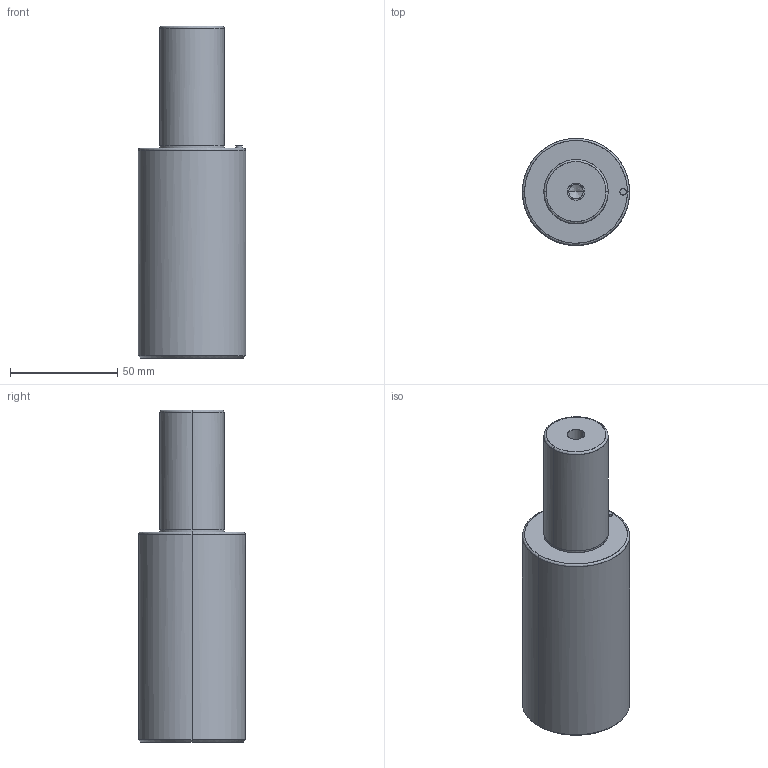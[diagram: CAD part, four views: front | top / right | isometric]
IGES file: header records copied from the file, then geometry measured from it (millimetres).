
Global section: file name: E:\UnigraphicsGraphicData\MISUMI_PRESS-PARTS\IGES\3d_gsc50-56_03836_r00.igs; native system: NX V5.0; preprocessor: UGS NX IGES V5.0; author: MISUMI; date: 20110105.160750; units: millimetre
Bounding box: 50 x 49.96 x 155 mm (x, y, z)
Surface area: 25385.9 mm2 (no closed solid volume)
Topology: 0 solids, 0 shells, 32 faces, 232 edges, 228 vertices
Faces by surface type: bspline 32
